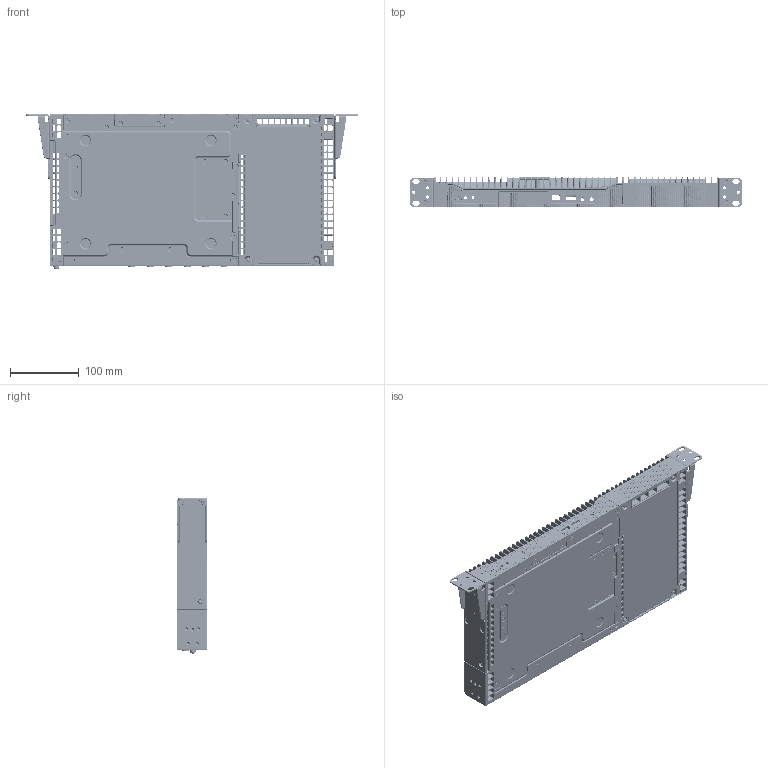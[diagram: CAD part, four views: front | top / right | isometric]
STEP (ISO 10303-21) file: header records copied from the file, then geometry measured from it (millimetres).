
FILE_DESCRIPTION((''),'2;1');
FILE_NAME('DKBA41437308_ASM','2023-06-25T14:20:06',('lWX1176703'),(''),'CREO PARAMETRIC BY PTC INC, 2019444','CREO PARAMETRIC BY PTC INC, 2019444','');
FILE_SCHEMA(('CONFIG_CONTROL_DESIGN'));
Products named in the file (70): DKBA81811829; SO-3_5M3-5-ZC; BSO-3_5M3-6-ZC; BSO-3_5M3-7-ZC; S-M3-1-ZC; DKBA80471462; QDKBA80470548; BSO-3_5M3-5-ZC; DKBA89600229; DKBA81811829_ASM; DKBA80275669; DKBA81811797; DKBA81811832; DKBA88080695; DKBA88080688; DKBA88080689; DKBA89270424; GB819-85_M3X6_H; 21245690_DRAEN_ASM; DKBA80060223; DKBA88080677; DKBA83105521; DKBA04801712_3X6; DKBA80766849; DKBA04800019_D07_52; 21216827_DRAEN_ASM; DKBA80060224; DKBA88080678; DKBA80962629; DKBA88080679; DKBA04800019_D07_13; DKBA83825552_AF0; 21216825_DRAEN_ASM; DKBA80060159; DKBA04800020_H04_42_8; DKBA04800020_H04_239_6; DKBA04800020_H04_148_4; DKBA04800020_H04_78_8; DKBA04800020_H04_59_6; DKBA04800020_H04_100_4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
Assembly tree (149 placements, depth 4):
  DKBA41437308_ASM
    21245690_DRAEN_ASM
      DKBA81811829_ASM
        DKBA81811829
        SO-3_5M3-5-ZC
        BSO-3_5M3-6-ZC  x3
        BSO-3_5M3-7-ZC  x7
        S-M3-1-ZC  x16
        DKBA80471462  x2
        QDKBA80470548  x2
        BSO-3_5M3-5-ZC  x4
        DKBA89600229
      DKBA80275669
      DKBA81811797
      DKBA81811832
      DKBA88080695
      DKBA88080688
      DKBA88080689
      DKBA89270424  x4
      GB819-85_M3X6_H  x6
    21216827_DRAEN_ASM
      DKBA80060223
      DKBA88080677
      DKBA83105521  x2
      DKBA04801712_3X6  x4
      DKBA80766849  x6
      DKBA04800019_D07_52
    21216825_DRAEN_ASM
      DKBA80060224
      DKBA88080678
      DKBA80962629
      DKBA88080679
      DKBA04800019_D07_13  x2
      DKBA83825552_AF0
    21216824_DRAEN_ASM
      DKBA80060159
      DKBA04800020_H04_42_8  x2
      DKBA04800020_H04_239_6
      DKBA04800020_H04_148_4
      DKBA04800020_H04_78_8
      DKBA04800020_H04_59_6
      DKBA04800020_H04_100_4
      DKBA82503425
      DKBA82503426
      DKBA82503424
      DKBA80046322
      DKBA80045851
      GB819-85_M2_5X6
      DKBA80108038
      GB818-85_M3X6  x2
      GB9074_4-88_M4X8_S
      DKBA88180906
      DKBA80705022
    21216949_DRAEN_ASM
      DKBA80056911
    21216950_DRAEN_ASM
      DKBA80056912
      DKBA68765449_ASM
        DKBA81138138
        DKBA04800020_H13_175_29
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Bounding box: 482.48 x 43.6 x 225.46 mm (x, y, z)
Volume: 1170424.1 mm3; surface area: 1105865 mm2
Topology: 141 solids, 305 shells, 21406 faces, 54936 edges, 33700 vertices
Faces by surface type: plane 9084, cylinder 7074, bspline 2047, torus 1273, cone 1045, sphere 610, extrusion 271, revolution 2
Entity records: 690413 total; most frequent: CARTESIAN_POINT 248514, ORIENTED_EDGE 94016, DIRECTION 88611, EDGE_CURVE 47611, AXIS2_PLACEMENT_3D 30073, VERTEX_POINT 29235, VECTOR 28463, LINE 28192
